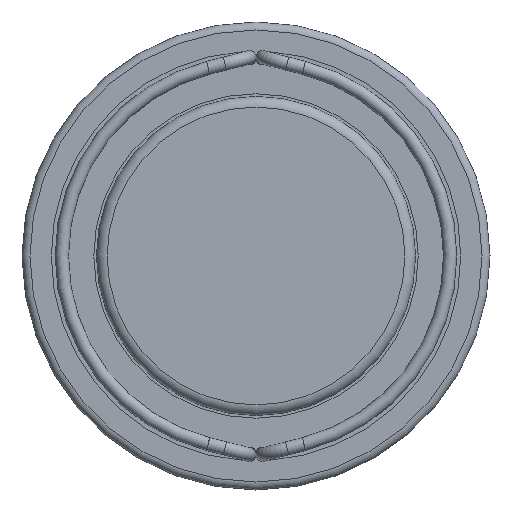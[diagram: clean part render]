
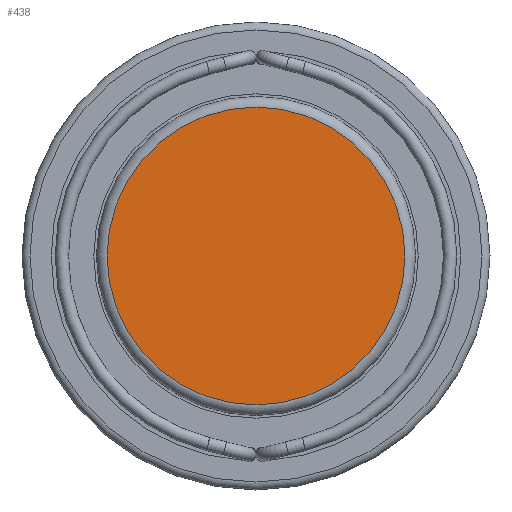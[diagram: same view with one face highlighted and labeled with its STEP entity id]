
A CAD part, front view. The second image highlights one B-rep face of the part: STEP entity #438.
In plain terms, the highlighted planar face has unit normal (0, -1, 0).
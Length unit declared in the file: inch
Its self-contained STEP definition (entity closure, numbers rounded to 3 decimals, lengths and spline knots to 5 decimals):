
#136=FACE_OUTER_BOUND('',#164,.T.);
#164=EDGE_LOOP('',(#327));
#194=CIRCLE('',#612,7.);
#225=VERTEX_POINT('',#868);
#262=EDGE_CURVE('',#225,#225,#194,.T.);
#327=ORIENTED_EDGE('',*,*,#262,.F.);
#421=PLANE('',#616);
#438=ADVANCED_FACE('',(#136),#421,.F.);
#612=AXIS2_PLACEMENT_3D('',#870,#701,#702);
#616=AXIS2_PLACEMENT_3D('',#876,#710,#711);
#701=DIRECTION('center_axis',(0.,1.,0.));
#702=DIRECTION('ref_axis',(1.,0.,0.));
#710=DIRECTION('center_axis',(0.,1.,0.));
#711=DIRECTION('ref_axis',(0.,0.,1.));
#868=CARTESIAN_POINT('',(0.,0.,-7.));
#870=CARTESIAN_POINT('Origin',(0.,0.,0.));
#876=CARTESIAN_POINT('Origin',(0.,0.,0.));
